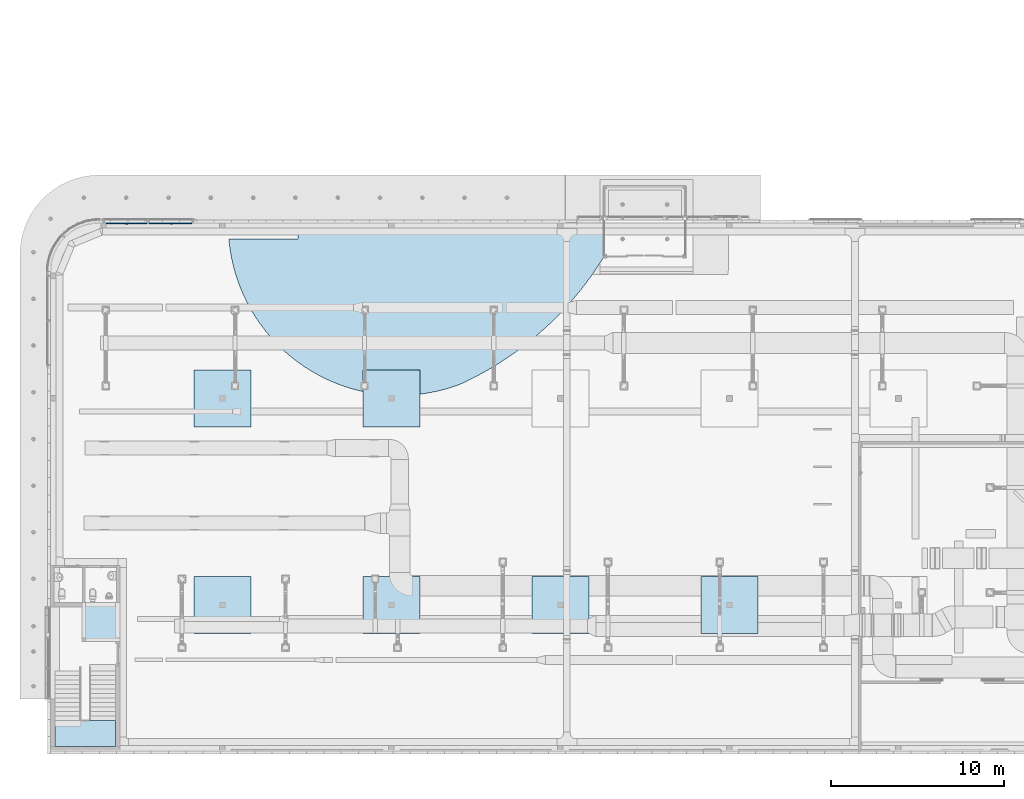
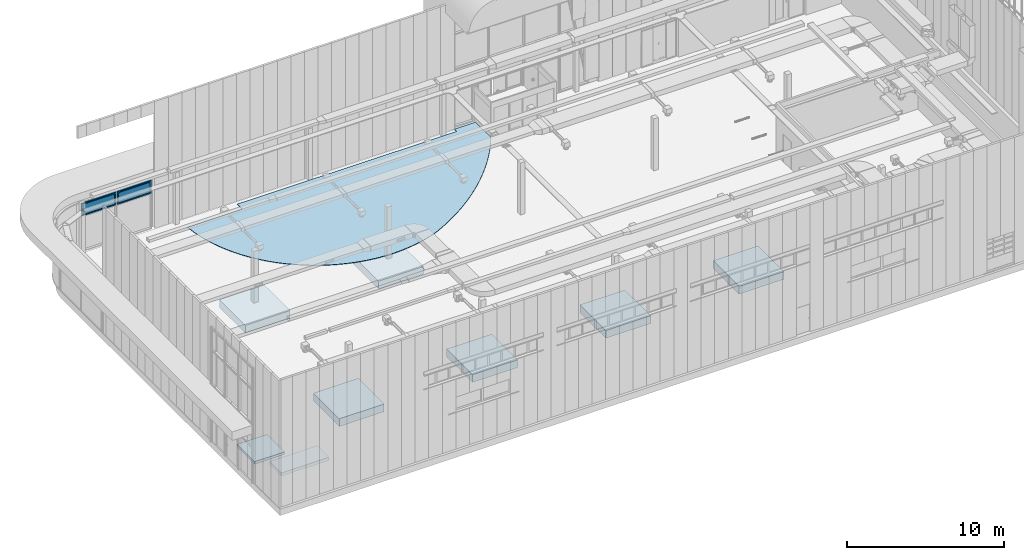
# One storey, part 206 of 302: 9 slabs, 2 plates, 2 elements without a shape of their own.
"""IFC2X3 building model written with IfcOpenShell, lengths in metres."""

from ifc_helpers import new_model, entity, si_unit, converted_unit, derived_unit, direction, frame, frame_2d, origin, origin_2d_with_axis, place, context, subcontext, project, spatial, polyline, circle_curve, parameter, trimmed, segment, composite_curve, rectangle, outline, extrude, faceted_brep, source, transform, mapped, material, material_list, layer, layer_set, layer_usage, type_object, type_shapes, element, aggregate, save


model = new_model("IFC2X3")

# Units and contexts
model_context = context("Model", 3, precision=1e-05, world=origin(), true_north=direction((6.12303176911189e-17, 1.0)))
body_context = subcontext(model_context, "Body", "Model", "MODEL_VIEW")
ifc_project = project(units=[si_unit("LENGTHUNIT", "METRE"), si_unit("AREAUNIT", "SQUARE_METRE"), si_unit("VOLUMEUNIT", "CUBIC_METRE"), converted_unit("PLANEANGLEUNIT", "DEGREE", entity("IfcRatioMeasure", 0.0174532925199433), si_unit("PLANEANGLEUNIT", "RADIAN"), dimensions=[0, 0, 0, 0, 0, 0, 0]), si_unit("MASSUNIT", "GRAM", prefix="KILO"), derived_unit("MASSDENSITYUNIT", [(si_unit("MASSUNIT", "GRAM", prefix="KILO"), 1), (si_unit("LENGTHUNIT", "METRE"), -3)]), derived_unit("MOMENTOFINERTIAUNIT", [(si_unit("LENGTHUNIT", "METRE"), 4)]), si_unit("TIMEUNIT", "SECOND"), si_unit("FREQUENCYUNIT", "HERTZ"), si_unit("THERMODYNAMICTEMPERATUREUNIT", "DEGREE_CELSIUS"), derived_unit("THERMALTRANSMITTANCEUNIT", [(si_unit("MASSUNIT", "GRAM", prefix="KILO"), 1), (si_unit("THERMODYNAMICTEMPERATUREUNIT", "KELVIN"), -1), (si_unit("TIMEUNIT", "SECOND"), -3)]), derived_unit("VOLUMETRICFLOWRATEUNIT", [(si_unit("LENGTHUNIT", "METRE"), 3), (si_unit("TIMEUNIT", "SECOND"), -1)]), si_unit("ELECTRICCURRENTUNIT", "AMPERE"), si_unit("ELECTRICVOLTAGEUNIT", "VOLT"), si_unit("POWERUNIT", "WATT"), si_unit("FORCEUNIT", "NEWTON", prefix="KILO"), si_unit("ILLUMINANCEUNIT", "LUX"), si_unit("LUMINOUSFLUXUNIT", "LUMEN"), si_unit("LUMINOUSINTENSITYUNIT", "CANDELA"), derived_unit("USERDEFINED", [(si_unit("MASSUNIT", "GRAM", prefix="KILO"), -1), (si_unit("LENGTHUNIT", "METRE"), -2), (si_unit("TIMEUNIT", "SECOND"), 3), (si_unit("LUMINOUSFLUXUNIT", "LUMEN"), 1)]), derived_unit("LINEARVELOCITYUNIT", [(si_unit("LENGTHUNIT", "METRE"), 1), (si_unit("TIMEUNIT", "SECOND"), -1)]), si_unit("PRESSUREUNIT", "PASCAL"), derived_unit("USERDEFINED", [(si_unit("LENGTHUNIT", "METRE"), -2), (si_unit("MASSUNIT", "GRAM", prefix="KILO"), 1), (si_unit("TIMEUNIT", "SECOND"), -2)]), derived_unit("LINEARFORCEUNIT", [(si_unit("MASSUNIT", "GRAM", prefix="KILO"), 1), (si_unit("LENGTHUNIT", "METRE"), 1), (si_unit("TIMEUNIT", "SECOND"), -2), (si_unit("LENGTHUNIT", "METRE"), -1)]), derived_unit("PLANARFORCEUNIT", [(si_unit("MASSUNIT", "GRAM", prefix="KILO"), 1), (si_unit("LENGTHUNIT", "METRE"), 1), (si_unit("TIMEUNIT", "SECOND"), -2), (si_unit("LENGTHUNIT", "METRE"), -2)])], contexts=[model_context])

# Site, building, storey
site_placement = place(None, origin())
site = spatial("IfcSite", under=ifc_project, at=site_placement, Name="Default", CompositionType="ELEMENT")
building_placement = place(site_placement, origin())
building = spatial("IfcBuilding", under=site, at=building_placement, CompositionType="ELEMENT")
storey_placement = place(building_placement, frame((0.0, 0.0, -1.3)))
storey = spatial("IfcBuildingStorey", under=building, at=storey_placement, Name="00_EG", CompositionType="ELEMENT", Elevation=-1.3)

# Slabs
ifc_material_1 = material(Name="Concrete, Einzelfundament")
slab_type_1 = type_object("IfcSlabType", Name="Einzelfundament:Einzelfundament 3.30mx3.30m", PredefinedType="BASESLAB", material=ifc_material_1)
slab_1_placement = place(storey_placement, origin())
element("IfcSlab", 1, at=slab_1_placement, inside=storey, type_object=slab_type_1, Name="Einzelfundament:Einzelfundament 3.30mx3.30m", ObjectType="Einzelfundament:Einzelfundament 3.30mx3.30m", PredefinedType="BASESLAB", context=body_context, shape_type="SweptSolid", body=[
    extrude(rectangle(XDim=3.30000000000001, YDim=3.3, at=frame_2d((0.0, -2.1094237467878e-15), x_axis=(1.0, 0.0))), frame((-246.935111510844, 35.4080889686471, 0.37), z_axis=(0.0, 0.0, 1.0), x_axis=(-1.0, 0.0, 0.0)), (0.0, 0.0, 1.0), 0.6),
])
slab_type_2 = type_object("IfcSlabType", Name="Einzelfundament:Einzelfundament 3.30mx3.30m", PredefinedType="BASESLAB", material=ifc_material_1)
slab_2_placement = place(storey_placement, origin())
element("IfcSlab", 2, at=slab_2_placement, inside=storey, type_object=slab_type_2, Name="Einzelfundament:Einzelfundament 3.30mx3.30m", ObjectType="Einzelfundament:Einzelfundament 3.30mx3.30m", PredefinedType="BASESLAB", context=body_context, shape_type="SweptSolid", body=[
    extrude(rectangle(XDim=3.30000000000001, YDim=3.3, at=frame_2d((0.0, -2.1094237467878e-15), x_axis=(1.0, 0.0))), frame((-256.722611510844, 35.4080889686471, 0.37), z_axis=(0.0, 0.0, 1.0), x_axis=(-1.0, 0.0, 0.0)), (0.0, 0.0, 1.0), 0.6),
])
slab_type_3 = type_object("IfcSlabType", Name="Einzelfundament:Einzelfundament 3.30mx3.30m", PredefinedType="BASESLAB", material=ifc_material_1)
slab_3_placement = place(storey_placement, origin())
element("IfcSlab", 3, at=slab_3_placement, inside=storey, type_object=slab_type_3, Name="Einzelfundament:Einzelfundament 3.30mx3.30m", ObjectType="Einzelfundament:Einzelfundament 3.30mx3.30m", PredefinedType="BASESLAB", context=body_context, shape_type="SweptSolid", body=[
    extrude(rectangle(XDim=3.30000000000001, YDim=3.3, at=frame_2d((0.0, -2.1094237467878e-15), x_axis=(1.0, 0.0))), frame((-227.360111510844, 23.4480889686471, 0.37), z_axis=(0.0, 0.0, 1.0), x_axis=(-1.0, 0.0, 0.0)), (0.0, 0.0, 1.0), 0.6),
])
slab_type_4 = type_object("IfcSlabType", Name="Einzelfundament:Einzelfundament 3.30mx3.30m", PredefinedType="BASESLAB", material=ifc_material_1)
slab_4_placement = place(storey_placement, origin())
element("IfcSlab", 4, at=slab_4_placement, inside=storey, type_object=slab_type_4, Name="Einzelfundament:Einzelfundament 3.30mx3.30m", ObjectType="Einzelfundament:Einzelfundament 3.30mx3.30m", PredefinedType="BASESLAB", context=body_context, shape_type="SweptSolid", body=[
    extrude(rectangle(XDim=3.30000000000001, YDim=3.3, at=frame_2d((0.0, 2.1094237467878e-15), x_axis=(1.0, 0.0))), frame((-237.147611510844, 23.4480889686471, 0.37), z_axis=(0.0, 0.0, 1.0), x_axis=(-1.0, 0.0, 0.0)), (0.0, 0.0, 1.0), 0.6),
])
slab_type_5 = type_object("IfcSlabType", Name="Einzelfundament:Einzelfundament 3.30mx3.30m", PredefinedType="BASESLAB", material=ifc_material_1)
slab_5_placement = place(storey_placement, origin())
element("IfcSlab", 5, at=slab_5_placement, inside=storey, type_object=slab_type_5, Name="Einzelfundament:Einzelfundament 3.30mx3.30m", ObjectType="Einzelfundament:Einzelfundament 3.30mx3.30m", PredefinedType="BASESLAB", context=body_context, shape_type="SweptSolid", body=[
    extrude(rectangle(XDim=3.30000000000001, YDim=3.3, at=frame_2d((0.0, -2.1094237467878e-15), x_axis=(1.0, 0.0))), frame((-246.935111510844, 23.4480889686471, 0.37), z_axis=(0.0, 0.0, 1.0), x_axis=(-1.0, 0.0, 0.0)), (0.0, 0.0, 1.0), 0.6),
])
slab_type_6 = type_object("IfcSlabType", Name="Einzelfundament:Einzelfundament 3.30mx3.30m", PredefinedType="BASESLAB", material=ifc_material_1)
slab_6_placement = place(storey_placement, origin())
element("IfcSlab", 6, at=slab_6_placement, inside=storey, type_object=slab_type_6, Name="Einzelfundament:Einzelfundament 3.30mx3.30m", ObjectType="Einzelfundament:Einzelfundament 3.30mx3.30m", PredefinedType="BASESLAB", context=body_context, shape_type="SweptSolid", body=[
    extrude(rectangle(XDim=3.30000000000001, YDim=3.3, at=frame_2d((0.0, -2.1094237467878e-15), x_axis=(1.0, 0.0))), frame((-256.722611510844, 23.4480889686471, 0.37), z_axis=(0.0, 0.0, 1.0), x_axis=(-1.0, 0.0, 0.0)), (0.0, 0.0, 1.0), 0.6),
])
ifc_material_2 = material(Name="Concrete, default")
ifc_layer_1 = layer(ifc_material_2, 0.2)
ifc_layer_set_1 = layer_set([ifc_layer_1], Name="Bodenplatte:Bodenplatte 200mm")
ifc_layer_usage_1 = layer_usage(ifc_layer_set_1, "AXIS3", "POSITIVE", 0.0)
slab_type_7 = type_object("IfcSlabType", Name="Bodenplatte:Bodenplatte 200mm", PredefinedType="BASESLAB", material=ifc_layer_set_1)
slab_7_placement = place(storey_placement, origin())
element("IfcSlab", 7, at=slab_7_placement, inside=storey, type_object=slab_type_7, material=ifc_layer_usage_1, Name="Bodenplatte:Bodenplatte 200mm", ObjectType="Bodenplatte:Bodenplatte 200mm", PredefinedType="BASESLAB", context=body_context, shape_type="SweptSolid", body=[
    extrude(rectangle(XDim=2.25, YDim=2.19999999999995, at=origin_2d_with_axis()), frame((-263.760111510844, 22.448088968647, 0.199999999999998), z_axis=(0.0, 0.0, -1.0), x_axis=(0.0, 1.0, 0.0)), (0.0, 0.0, 1.0), 0.2),
])

# Curtain wall, plates
curtain_wall_type = type_object("IfcCurtainWallType", Name="Fassade:Glasfassade", PredefinedType="NOTDEFINED")
curtain_wall_placement = place(storey_placement, frame((0.0, 0.0, 1.3)))
curtain_wall = element("IfcCurtainWall", 8, at=curtain_wall_placement, inside=storey, type_object=curtain_wall_type, Name="Fassade:Glasfassade", ObjectType="Fassade:Glasfassade")
ifc_material_3 = material(Name="Metall - Edelstahl satiniert")
ifc_material_4 = material(Name="Glass")
ifc_material_5 = material(Name="Prepainted_Steel-ArcelorMittal_Construction_HAIRULTRA-35-CORAL-4309-[RAL_3000]")
ifc_material_list_1 = material_list([ifc_material_3, ifc_material_4, ifc_material_5])
ifc_material_list_2 = material_list([ifc_material_3, ifc_material_4, ifc_material_5])
plate_type = type_object("IfcPlateType", Name="Fassade - FE 1 flg:Kippelement Typ 2", PredefinedType="CURTAIN_PANEL", material=ifc_material_list_2)
shared_shape = source(origin(), body_context, "Body", "Brep", [
    faceted_brep([(0.0175000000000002, -0.0650000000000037, 0.957500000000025), (0.0, -0.0650000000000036, 0.957500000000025), (-0.0174999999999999, -0.0650000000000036, 0.957500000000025), (-0.0207352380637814, -0.0650000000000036, 0.957925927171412), (-0.0237499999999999, -0.0650000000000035, 0.95917468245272), (-0.0263388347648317, -0.0650000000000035, 0.961161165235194), (-0.0283253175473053, -0.0650000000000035, 0.963750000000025), (-0.0295740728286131, -0.0650000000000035, 0.966764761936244), (-0.0299999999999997, -0.0650000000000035, 0.970000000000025), (-0.029574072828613, -0.0650000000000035, 0.973235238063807), (-0.0283253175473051, -0.0650000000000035, 0.976250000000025), (-0.0263388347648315, -0.0650000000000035, 0.978838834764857), (-0.0237499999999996, -0.0650000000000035, 0.980825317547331), (-0.0207352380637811, -0.0650000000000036, 0.982074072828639), (-0.0174999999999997, -0.0650000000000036, 0.982500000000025), (0.0, -0.0650000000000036, 0.982500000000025), (0.0175000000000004, -0.0650000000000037, 0.982500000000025), (0.020735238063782, -0.0650000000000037, 0.982074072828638), (0.0237500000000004, -0.0650000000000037, 0.98082531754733), (0.0263388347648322, -0.0650000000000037, 0.978838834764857), (0.0283253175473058, -0.0650000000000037, 0.976250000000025), (0.0295740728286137, -0.0650000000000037, 0.973235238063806), (0.0300000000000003, -0.0650000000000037, 0.970000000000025), (0.0295740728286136, -0.0650000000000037, 0.966764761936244), (0.0283253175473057, -0.0650000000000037, 0.963750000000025), (0.026338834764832, -0.0650000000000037, 0.961161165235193), (0.0237500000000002, -0.0650000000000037, 0.959174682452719), (0.0207352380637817, -0.0650000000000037, 0.957925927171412), (-0.00499999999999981, -0.100000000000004, 0.961339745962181), (-0.00866025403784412, -0.0710000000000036, 0.965000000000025), (-0.00258819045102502, -0.0975881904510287, 0.960340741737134), (-0.00707106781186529, -0.102071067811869, 0.96292893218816), (-0.00965925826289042, -0.0710000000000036, 0.967411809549), (-0.00965925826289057, -0.104659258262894, 0.97258819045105), (-0.00866025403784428, -0.103660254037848, 0.975000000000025), (-0.00866025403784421, -0.103660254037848, 0.965000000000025), (-0.00965925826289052, -0.104659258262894, 0.967411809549), (-0.00999999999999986, -0.105000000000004, 0.970000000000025), (-0.00999999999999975, -0.0710000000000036, 0.970000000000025), (-0.00258819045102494, -0.0710000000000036, 0.960340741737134), (0.0, -0.0710000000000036, 0.960000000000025), (0.0, -0.0832843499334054, 0.960000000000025), (0.0, -0.0891421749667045, 0.960000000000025), (0.0, -0.0920710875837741, 0.960000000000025), (0.0, -0.0950000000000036, 0.960000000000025), (-0.00499999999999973, -0.0710000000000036, 0.961339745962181), (-0.0070710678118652, -0.0710000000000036, 0.96292893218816), (-0.00707106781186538, -0.102071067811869, 0.977071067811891), (-0.00866025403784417, -0.0710000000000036, 0.975000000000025), (-0.00499999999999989, -0.100000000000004, 0.97866025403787), (-0.00258819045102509, -0.0975881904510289, 0.979659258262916), (-0.00965925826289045, -0.0710000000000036, 0.97258819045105), (-0.00707106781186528, -0.0710000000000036, 0.977071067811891), (0.0, -0.0950000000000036, 0.980000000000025), (-0.00499999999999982, -0.0710000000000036, 0.97866025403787), (-0.00258819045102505, -0.0710000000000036, 0.979659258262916), (0.0, -0.0920710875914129, 0.980000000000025), (0.0, -0.0891421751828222, 0.980000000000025), (0.0, -0.0832843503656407, 0.980000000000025), (0.0, -0.0710000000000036, 0.980000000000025), (0.00707106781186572, -0.0879289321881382, 0.977071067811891), (0.00500000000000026, -0.0900000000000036, 0.97866025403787), (0.00258819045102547, -0.0924118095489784, 0.979659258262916), (0.0025881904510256, -0.0710000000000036, 0.979659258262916), (0.00866025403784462, -0.0863397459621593, 0.975000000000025), (0.00965925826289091, -0.085340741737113, 0.97258819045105), (0.00707106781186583, -0.0710000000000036, 0.977071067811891), (0.00500000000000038, -0.0710000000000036, 0.978660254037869), (0.00866025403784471, -0.0710000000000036, 0.975000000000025), (0.00965925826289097, -0.0710000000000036, 0.97258819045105), (0.0100000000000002, -0.0850000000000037, 0.970000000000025), (0.0100000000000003, -0.0710000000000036, 0.970000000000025), (0.00707106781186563, -0.0879289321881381, 0.96292893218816), (0.00866025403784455, -0.0863397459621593, 0.965000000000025), (0.00965925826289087, -0.085340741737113, 0.967411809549), (0.00707106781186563, -0.0710000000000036, 0.96292893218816), (0.00258819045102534, -0.0710000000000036, 0.960340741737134), (0.00258819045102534, -0.0924118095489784, 0.960340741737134), (0.00500000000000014, -0.0900000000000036, 0.961339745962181), (0.0096592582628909, -0.0710000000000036, 0.967411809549), (0.00866025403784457, -0.0710000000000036, 0.965000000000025), (0.00500000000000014, -0.0710000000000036, 0.961339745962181), (0.12, -0.095000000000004, 0.960000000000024), (0.12, -0.0924118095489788, 0.960340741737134), (0.12, -0.090000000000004, 0.96133974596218), (0.12, -0.0879289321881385, 0.962928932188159), (0.12, -0.0863397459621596, 0.965000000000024), (0.12, -0.0853407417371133, 0.967411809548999), (0.12, -0.085000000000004, 0.970000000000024), (0.12, -0.0853407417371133, 0.972588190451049), (0.12, -0.0863397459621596, 0.975000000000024), (0.12, -0.0879289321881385, 0.97707106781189), (0.12, -0.090000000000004, 0.978660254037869), (0.12, -0.0924118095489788, 0.979659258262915), (0.12, -0.0950000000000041, 0.980000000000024), (0.12, -0.0975881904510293, 0.979659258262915), (0.12, -0.100000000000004, 0.978660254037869), (0.12, -0.10207106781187, 0.97707106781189), (0.12, -0.103660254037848, 0.975000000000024), (0.12, -0.104659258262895, 0.972588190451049), (0.12, -0.105000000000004, 0.970000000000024), (0.12, -0.104659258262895, 0.967411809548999), (0.12, -0.103660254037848, 0.965000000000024), (0.12, -0.102071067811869, 0.962928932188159), (0.12, -0.100000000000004, 0.96133974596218), (0.12, -0.0975881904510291, 0.960340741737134), (0.0276043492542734, -0.0950000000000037, 0.960000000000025), (0.0552086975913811, -0.0950000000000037, 0.960000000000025), (0.0552086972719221, -0.0950000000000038, 0.980000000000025), (0.0276043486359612, -0.0950000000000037, 0.980000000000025), (0.0237500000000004, -0.0710000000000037, 0.98082531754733), (0.0263388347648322, -0.0710000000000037, 0.978838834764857), (0.0207352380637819, -0.0710000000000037, 0.982074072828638), (0.0175000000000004, -0.0710000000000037, 0.982500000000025), (0.0, -0.0710000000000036, 0.982500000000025), (-0.0174999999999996, -0.0710000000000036, 0.982500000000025), (-0.0207352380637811, -0.0710000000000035, 0.982074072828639), (-0.0237499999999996, -0.0710000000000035, 0.980825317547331), (-0.0263388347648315, -0.0710000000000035, 0.978838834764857), (-0.0283253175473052, -0.0710000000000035, 0.976250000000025), (-0.0295740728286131, -0.0710000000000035, 0.973235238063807), (-0.0299999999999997, -0.0710000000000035, 0.970000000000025), (-0.0295740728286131, -0.0710000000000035, 0.966764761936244), (-0.0283253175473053, -0.0710000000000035, 0.963750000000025), (-0.0263388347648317, -0.0710000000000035, 0.961161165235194), (-0.0237499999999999, -0.0710000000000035, 0.95917468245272), (-0.0207352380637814, -0.0710000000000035, 0.957925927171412), (-0.0174999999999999, -0.0710000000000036, 0.957500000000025), (0.0, -0.0710000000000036, 0.957500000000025), (0.0175000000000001, -0.0710000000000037, 0.957500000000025), (0.0207352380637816, -0.0710000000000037, 0.957925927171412), (0.0237500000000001, -0.0710000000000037, 0.959174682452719), (0.026338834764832, -0.0710000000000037, 0.961161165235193), (0.0283253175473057, -0.0710000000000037, 0.963750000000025), (0.0295740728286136, -0.0710000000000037, 0.966764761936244), (0.0300000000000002, -0.0710000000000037, 0.970000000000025), (0.0295740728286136, -0.0710000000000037, 0.973235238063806), (0.0283253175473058, -0.0710000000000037, 0.976250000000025)], [[[0, 1, 2, 3, 4, 5, 6, 7, 8, 9, 10, 11, 12, 13, 14, 15, 16, 17, 18, 19, 20, 21, 22, 23, 24, 25, 26, 27]], [[28, 29, 30]], [[31, 32, 28]], [[33, 34, 35, 36, 37]], [[32, 31, 38]], [[38, 31, 35]], [[39, 40, 41, 42, 43, 44]], [[39, 44, 45]], [[46, 45, 44]], [[46, 30, 29]], [[44, 30, 46]], [[28, 32, 29]], [[35, 34, 38]], [[47, 38, 34]], [[48, 49, 50]], [[47, 49, 51]], [[52, 50, 53]], [[51, 38, 47]], [[48, 51, 49]], [[54, 52, 53]], [[55, 53, 56, 57, 58, 59]], [[54, 53, 55]], [[48, 50, 52]], [[60, 58, 61]], [[53, 62, 57, 56]], [[58, 63, 59]], [[58, 57, 61]], [[64, 65, 66]], [[58, 64, 66]], [[58, 60, 64]], [[58, 67, 63]], [[65, 68, 66]], [[67, 58, 66]], [[68, 65, 69]], [[70, 71, 69, 65]], [[61, 57, 62]], [[72, 41, 73]], [[74, 73, 75]], [[76, 41, 40]], [[77, 44, 43, 42]], [[42, 78, 77]], [[78, 41, 72]], [[71, 70, 74, 79]], [[80, 79, 74]], [[75, 73, 41]], [[42, 41, 78]], [[41, 76, 81]], [[41, 81, 75]], [[80, 74, 75]], [[82, 83, 84, 85, 86, 87, 88, 89, 90, 91, 92, 93, 94, 95, 96, 97, 98, 99, 100, 101, 102, 103, 104, 105]], [[105, 44, 106, 107, 82]], [[104, 44, 105]], [[102, 101, 36, 35]], [[30, 104, 103]], [[31, 103, 102, 35]], [[103, 28, 30]], [[30, 44, 104]], [[31, 28, 103]], [[100, 37, 36, 101]], [[98, 97, 47, 34]], [[99, 98, 34, 33]], [[95, 94, 108, 109, 53]], [[96, 95, 53]], [[97, 96, 50]], [[33, 37, 100, 99]], [[97, 49, 47]], [[97, 50, 49]], [[96, 53, 50]], [[108, 92, 91]], [[92, 108, 93]], [[89, 65, 108]], [[108, 90, 89]], [[108, 91, 90]], [[93, 108, 94]], [[62, 53, 109]], [[61, 62, 109]], [[70, 65, 89, 88]], [[64, 108, 65]], [[108, 64, 60]], [[109, 60, 61]], [[106, 78, 72]], [[78, 106, 77]], [[85, 107, 86]], [[86, 107, 87]], [[82, 107, 83]], [[44, 77, 106]], [[83, 107, 84]], [[84, 107, 85]], [[74, 70, 88, 87]], [[87, 107, 74]], [[107, 72, 73]], [[107, 106, 72]], [[73, 74, 107]], [[108, 60, 109]], [[110, 71, 111]], [[69, 71, 110]], [[112, 69, 110]], [[112, 113, 69]], [[69, 113, 68]], [[66, 68, 113]], [[67, 66, 113]], [[114, 67, 113]], [[114, 63, 67]], [[114, 59, 63]], [[55, 59, 114]], [[114, 54, 55]], [[54, 114, 115]], [[52, 54, 115]], [[48, 52, 115]], [[51, 48, 115]], [[116, 51, 115]], [[116, 117, 51]], [[51, 117, 38]], [[118, 38, 117]], [[38, 118, 119]], [[119, 120, 38]], [[38, 120, 121]], [[38, 121, 122]], [[122, 123, 38]], [[123, 124, 38]], [[125, 38, 124]], [[32, 38, 125]], [[126, 32, 125]], [[32, 126, 127]], [[29, 32, 127]], [[46, 29, 127]], [[45, 46, 127]], [[127, 128, 45]], [[128, 39, 45]], [[128, 40, 39]], [[128, 76, 40]], [[128, 81, 76]], [[128, 129, 81]], [[81, 129, 75]], [[80, 75, 129]], [[79, 80, 129]], [[79, 129, 130]], [[130, 131, 79]], [[71, 131, 132]], [[71, 79, 131]], [[133, 71, 132]], [[71, 133, 134]], [[135, 71, 134]], [[136, 71, 135]], [[71, 136, 137]], [[111, 71, 137]], [[13, 116, 115, 14]], [[12, 117, 116, 13]], [[119, 118, 11, 10]], [[12, 11, 118, 117]], [[120, 119, 10, 9]], [[121, 120, 9, 8]], [[7, 122, 121, 8]], [[6, 123, 122, 7]], [[125, 124, 5, 4]], [[6, 5, 124, 123]], [[126, 125, 4, 3]], [[127, 126, 3, 2]], [[128, 127, 2, 1, 0, 129]], [[27, 130, 129, 0]], [[26, 131, 130, 27]], [[133, 132, 25, 24]], [[26, 25, 132, 131]], [[134, 133, 24, 23]], [[135, 134, 23, 22]], [[21, 136, 135, 22]], [[20, 137, 136, 21]], [[110, 111, 19, 18]], [[20, 19, 111, 137]], [[112, 110, 18, 17]], [[113, 112, 17, 16]], [[114, 113, 16, 15, 14, 115]]]),
    faceted_brep([(-1.15500000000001, 0.00200000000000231, 0.920000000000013), (1.15500000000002, 0.00199999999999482, 0.920000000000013), (1.15500000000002, 0.00199999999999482, 0.0999999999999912), (-1.15500000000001, 0.00200000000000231, 0.0999999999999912), (-1.15500000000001, -0.0419999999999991, 0.920000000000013), (-1.15500000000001, -0.0419999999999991, 0.0999999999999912), (1.15500000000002, -0.0420000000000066, 0.0999999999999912), (1.15500000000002, -0.0420000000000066, 0.920000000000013)], [[[0, 1, 2, 3]], [[4, 5, 6, 7]], [[1, 0, 4, 7]], [[2, 1, 7, 6]], [[3, 2, 6, 5]], [[0, 3, 5, 4]]]),
    faceted_brep([(-1.23500000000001, -0.0649999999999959, 1.0), (-1.23500000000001, -0.0449999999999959, 1.0), (-1.23500000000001, -0.0449999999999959, 0.0200000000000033), (-1.23500000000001, -0.0649999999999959, 0.020000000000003), (-1.15500000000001, 0.0250000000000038, 0.920000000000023), (-1.15500000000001, -0.0649999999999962, 0.920000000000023), (-1.15500000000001, -0.0649999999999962, 0.100000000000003), (-1.15500000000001, 0.0250000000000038, 0.100000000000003), (-1.20500000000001, -0.044999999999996, 0.970000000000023), (-1.20500000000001, 0.025000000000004, 0.970000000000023), (-1.20500000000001, 0.025000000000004, 0.0500000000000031), (-1.20500000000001, -0.044999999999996, 0.0500000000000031), (1.23500000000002, -0.0450000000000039, 0.0200000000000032), (1.23500000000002, -0.0650000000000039, 0.0200000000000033), (1.15500000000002, -0.0650000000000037, 0.100000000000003), (1.15500000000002, 0.0249999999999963, 0.100000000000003), (1.20500000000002, 0.0249999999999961, 0.0500000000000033), (1.20500000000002, -0.0450000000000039, 0.0500000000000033), (1.23500000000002, -0.045000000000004, 1.0), (1.23500000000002, -0.0650000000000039, 1.0), (1.15500000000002, -0.0650000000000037, 0.920000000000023), (1.15500000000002, 0.0249999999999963, 0.920000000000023), (1.20500000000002, 0.0249999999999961, 0.970000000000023), (1.20500000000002, -0.0450000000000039, 0.970000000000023)], [[[0, 1, 2, 3]], [[4, 5, 6, 7]], [[8, 9, 10, 11]], [[3, 2, 12, 13]], [[7, 6, 14, 15]], [[11, 10, 16, 17]], [[13, 12, 18, 19]], [[15, 14, 20, 21]], [[17, 16, 22, 23]], [[19, 18, 1, 0]], [[3, 13, 19, 0], [5, 20, 14, 6]], [[21, 20, 5, 4]], [[7, 15, 21, 4], [9, 22, 16, 10]], [[23, 22, 9, 8]], [[11, 17, 23, 8], [1, 18, 12, 2]]], outer=[[True], [True], [True], [True], [True], [True], [True], [True], [True], [True], [True, False], [True], [False, True], [True], [False, True]]),
    faceted_brep([(-1.25500000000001, -0.0449999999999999, 1.02000000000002), (-1.25500000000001, -0.0449999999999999, 0.0), (1.25500000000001, -0.0449999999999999, 0.0), (1.25500000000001, -0.0449999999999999, 1.02000000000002), (-1.20500000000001, -0.0449999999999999, 0.970000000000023), (1.20500000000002, -0.0449999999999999, 0.970000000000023), (1.20500000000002, -0.0449999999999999, 0.0500000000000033), (-1.20500000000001, -0.0449999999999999, 0.0500000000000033), (-1.25500000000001, 0.0449999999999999, 1.02000000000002), (1.25500000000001, 0.0449999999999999, 1.02000000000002), (1.25500000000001, 0.0449999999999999, 0.0), (-1.25500000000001, 0.0449999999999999, 0.0), (-1.20500000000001, 0.0449999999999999, 0.970000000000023), (-1.20500000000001, 0.0449999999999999, 0.0500000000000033), (1.20500000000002, 0.0449999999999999, 0.0500000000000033), (1.20500000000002, 0.0449999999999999, 0.970000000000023)], [[[0, 1, 2, 3], [4, 5, 6, 7]], [[8, 9, 10, 11], [12, 13, 14, 15]], [[1, 0, 8, 11]], [[2, 1, 11, 10]], [[3, 2, 10, 9]], [[0, 3, 9, 8]], [[5, 4, 12, 15]], [[6, 5, 15, 14]], [[7, 6, 14, 13]], [[4, 7, 13, 12]]]),
])
type_shapes(plate_type, [shared_shape])
plate_1_placement = place(curtain_wall_placement, frame((-262.31111364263, 45.578088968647, 2.80999999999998)))
plate_1 = element("IfcPlate", 9, at=plate_1_placement, type_object=plate_type, material=ifc_material_list_1, Name="Fassade - FE 1 flg:Kippelement Typ 2", ObjectType="Fassade - FE 1 flg:Kippelement Typ 2", context=body_context, shape_type="MappedRepresentation", body=[
    mapped(shared_shape, transform((0.0, 0.0, 0.0), scale=1.0)),
])
ifc_material_list_3 = material_list([ifc_material_3, ifc_material_4, ifc_material_5])
plate_2_placement = place(curtain_wall_placement, frame((-259.72111364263, 45.578088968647, 2.80999999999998)))
plate_2 = element("IfcPlate", 10, at=plate_2_placement, type_object=plate_type, material=ifc_material_list_3, Name="Fassade - FE 1 flg:Kippelement Typ 2", ObjectType="Fassade - FE 1 flg:Kippelement Typ 2", context=body_context, shape_type="MappedRepresentation", body=[
    mapped(shared_shape, transform((0.0, 0.0, 0.0), scale=1.0)),
])
aggregate(curtain_wall, [plate_1, plate_2])

# Stair, slab
stair_placement = place(storey_placement, origin())
stair = element("IfcStair", 11, at=stair_placement, inside=storey, Name="Fertigbetontreppe:Treppe", ObjectType="Fertigbetontreppe:Precast Stair", ShapeType="NOTDEFINED")
ifc_material_6 = material(Name="<Unnamed>")
slab_type_8 = type_object("IfcSlabType", Name="Massivtreppenpodest:300 mm Thickness", PredefinedType="LANDING")
slab_8_placement = place(stair_placement, origin())
slab_8 = element("IfcSlab", 12, at=slab_8_placement, type_object=slab_type_8, material=ifc_material_6, Name="Fertigbetontreppe:Treppe:2873957 Landing 1", ObjectType="Massivtreppenpodest:300 mm Thickness", PredefinedType="LANDING", context=body_context, shape_type="SweptSolid", body=[
    extrude(rectangle(XDim=3.50704089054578, YDim=1.50000000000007, at=origin_2d_with_axis()), frame((-264.663631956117, 15.9980889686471, 3.30782608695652), z_axis=(0.0, 0.0, 1.0), x_axis=(-1.0, 0.0, 0.0)), (0.0, 0.0, 1.0), 0.24),
])
aggregate(stair, [slab_8])

# Slab
ifc_material_7 = material(Name="Parkett")
ifc_layer_2 = layer(ifc_material_7, 0.03)
ifc_layer_set_2 = layer_set([ifc_layer_2], Name="Geschossdecke:Parkett  innen 0.03")
ifc_layer_usage_2 = layer_usage(ifc_layer_set_2, "AXIS3", "POSITIVE", 0.0)
slab_type_9 = type_object("IfcSlabType", Name="Geschossdecke:Parkett  innen 0.03", PredefinedType="FLOOR", material=ifc_layer_set_2)
slab_9_placement = place(storey_placement, origin())
element("IfcSlab", 13, at=slab_9_placement, inside=storey, type_object=slab_type_9, material=ifc_layer_usage_2, Name="Geschossdecke:Parkett  innen 0.03", ObjectType="Geschossdecke:Parkett  innen 0.03", PredefinedType="FLOOR", context=body_context, shape_type="SweptSolid", body=[
    extrude(outline(composite_curve([segment(polyline([(-1.72540883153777, -8.5534007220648), (0.274591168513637, -8.55340072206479)]), True, "CONTINUOUS"), segment(trimmed(circle_curve(frame_2d((-9.63652860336, 7.605232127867), x_axis=(0.522847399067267, -0.852426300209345)), 18.9560468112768), [parameter(0.0)], [parameter(33.9070850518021)], True, "PARAMETER"), True, "CONTINUOUS"), segment(trimmed(circle_curve(frame_2d((-1.64685375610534, 3.26622788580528), x_axis=(0.933847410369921, -0.357671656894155)), 9.90531155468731), [parameter(0.0)], [parameter(105.98355752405)], True, "PARAMETER"), True, "CONTINUOUS"), segment(polyline([(-0.788075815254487, 13.134241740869), (-0.788075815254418, 9.12424122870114)]), True, "CONTINUOUS"), segment(polyline([(-0.788075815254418, 9.12424122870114), (-1.42540883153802, 9.12424122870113)]), True, "CONTINUOUS"), segment(polyline([(-1.42540883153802, 9.12424122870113), (-1.42540883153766, -6.99965072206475)]), True, "CONTINUOUS"), segment(polyline([(-1.42540883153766, -6.99965072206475), (-1.7254088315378, -6.99965072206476)]), True, "CONTINUOUS"), segment(polyline([(-1.7254088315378, -6.99965072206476), (-1.72540883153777, -8.5534007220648)]), True, "CONTINUOUS")], self_intersect=False)), frame((-243.207262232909, 43.8326801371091, 1.3), z_axis=(0.0, 0.0, -1.0), x_axis=(0.0, -1.0, 0.0)), (0.0, 0.0, 1.0), 0.03),
])

save(model, "model.ifc")
